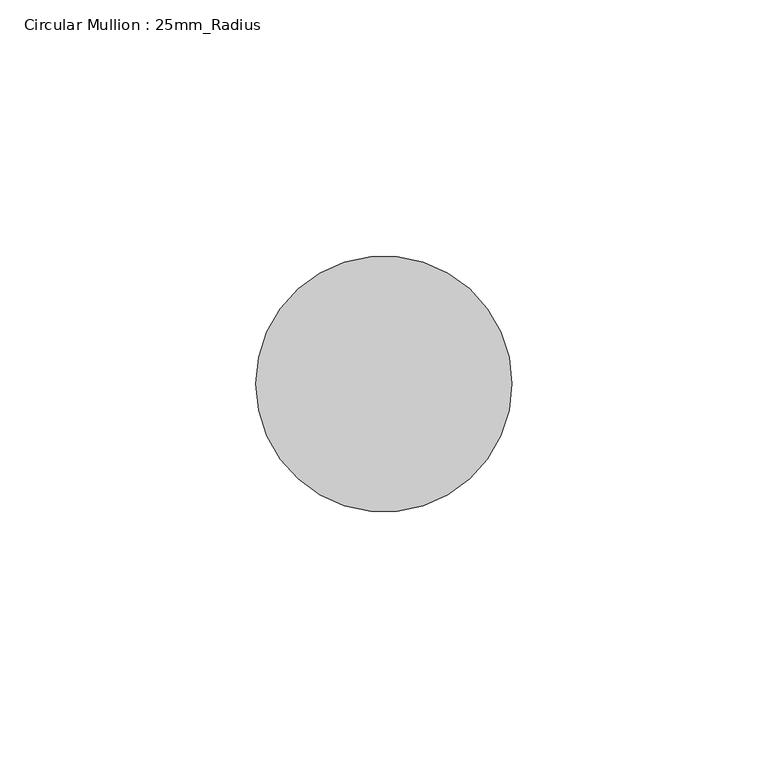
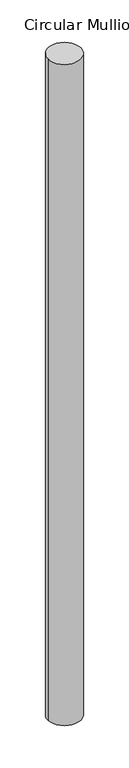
"""IFC4 building model written with IfcOpenShell, lengths in millimetres: member geometry, Circular Mullion : 25mm_Radius."""

from ifc_helpers import new_model, si_unit, point, frame, frame_2d, origin, place, context, project, spatial, circle_curve, trimmed, segment, composite_curve, outline, extrude, source, transform, mapped, element, save


def circular_mullion_25mm_radius_cd3142e0(model_context):
    return source(origin(), model_context, "Body", "SweptSolid", [
        extrude(outline(composite_curve([segment(trimmed(circle_curve(frame_2d((-25.0, 0.0)), 25.0), [point((0.0, 0.0))], [point((-50.0, 0.0))], False, "CARTESIAN"), True, "CONTINUOUS"), segment(trimmed(circle_curve(frame_2d((-25.0, 0.0)), 25.0), [point((-50.0, 0.0))], [point((0.0, 0.0))], False, "CARTESIAN"), True, "CONTINUOUS")], self_intersect=False)), frame((0.0, 0.0, -1050.0), z_axis=(0.0, 0.0, 1.0), x_axis=(1.0, 0.0, 0.0)), (0.0, 0.0, 1.0), 1050.0),
    ])


if __name__ == "__main__":
    model = new_model("IFC4")
    model_context = context("Model", 3, world=origin())
    ifc_project = project(units=[si_unit("LENGTHUNIT", "METRE", prefix="MILLI")], contexts=[model_context])
    site = spatial("IfcSite", under=ifc_project)
    building = spatial("IfcBuilding", under=site)
    placement = place(None, origin())
    circular_mullion_25mm_radius_shape = circular_mullion_25mm_radius_cd3142e0(model_context)
    element("IfcMember", 1, ObjectType="Circular Mullion : 25mm_Radius", at=placement, inside=building, context=model_context, shape_type="MappedRepresentation", body=[
        mapped(circular_mullion_25mm_radius_shape, transform((0.0, 0.0, 0.0), x_axis=(1.0, 0.0, 0.0), y_axis=(0.0, 1.0, 0.0), z_axis=(0.0, 0.0, 1.0))),
    ])
    save(model, "model.ifc")
